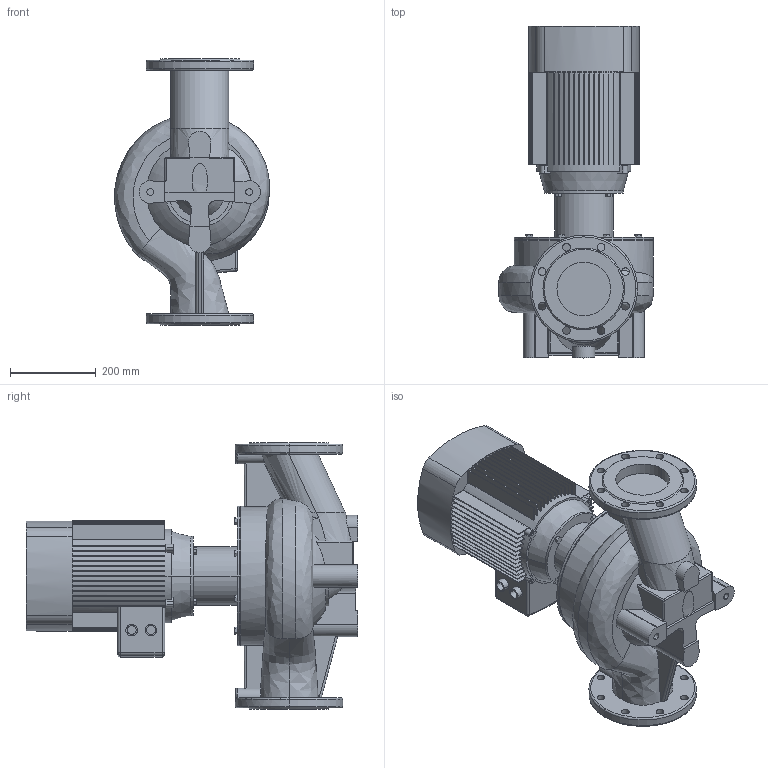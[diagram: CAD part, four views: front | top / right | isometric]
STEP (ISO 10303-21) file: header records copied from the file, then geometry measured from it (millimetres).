
FILE_DESCRIPTION (( 'STEP AP203' ), '1' );
FILE_NAME ('TD125-11G_4.STEP', '2022-05-02T19:16:00', ( '' ), ( '' ), 'SwSTEP 2.0', 'SolidWorks 2019', '' );
FILE_SCHEMA (( 'CONFIG_CONTROL_DESIGN' ));
Length unit declared in the file: millimetre
Products named in the file (4): TD125-11G_4; Pr_ch 125_TD125-11G_4; Fon_125_TD125-11G_4; ED_B14_YE2-132S-4 (5.5)
Assembly tree (3 placements, depth 2):
  TD125-11G_4
    Pr_ch 125_TD125-11G_4
    Fon_125_TD125-11G_4
    ED_B14_YE2-132S-4 (5.5)
Bounding box: 360.42 x 772 x 620 mm (x, y, z)
Volume: 43863768.1 mm3; surface area: 2017576.2 mm2
Topology: 3 solids, 7 shells, 676 faces, 1819 edges, 1198 vertices
Faces by surface type: plane 430, cylinder 175, bspline 29, torus 25, cone 11, sphere 6
Entity records: 29122 total; most frequent: CARTESIAN_POINT 11570, ORIENTED_EDGE 3630, DIRECTION 3543, EDGE_CURVE 1815, AXIS2_PLACEMENT_3D 1249, VERTEX_POINT 1198, LINE 1045, VECTOR 1045
